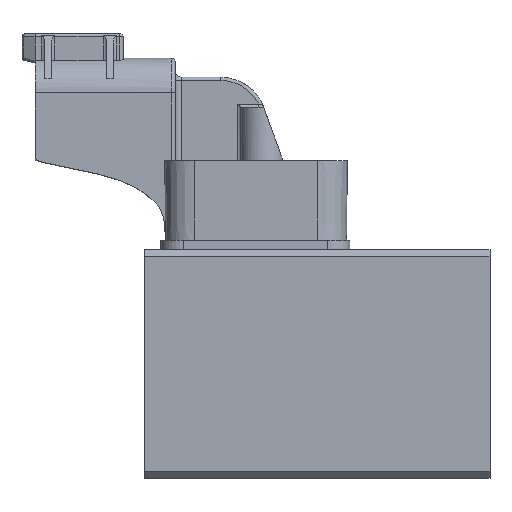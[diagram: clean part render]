
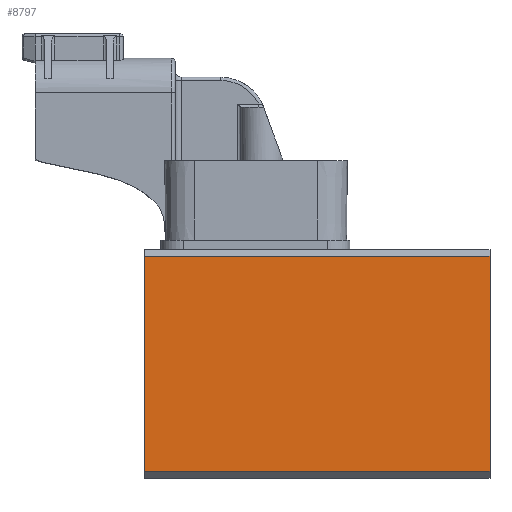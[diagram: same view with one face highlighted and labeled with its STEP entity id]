
A CAD part, top view. The second image highlights one B-rep face of the part: STEP entity #8797.
In plain terms, the highlighted planar face has unit normal (0, 0, 1).
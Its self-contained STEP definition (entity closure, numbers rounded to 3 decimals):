
#619 = DIRECTION ( 'NONE',  ( -1., 0., 0. ) ) ;
#1108 = DIRECTION ( 'NONE',  ( 0., 0., -1. ) ) ;
#2593 = VERTEX_POINT ( 'NONE', #13477 ) ;
#2720 = EDGE_LOOP ( 'NONE', ( #12645, #10191, #11117, #18543 ) ) ;
#3507 = DIRECTION ( 'NONE',  ( 1., 0., 0. ) ) ;
#3806 = LINE ( 'NONE', #14787, #13007 ) ;
#5380 = EDGE_CURVE ( 'NONE', #17459, #20080, #17105, .T. ) ;
#6477 = EDGE_CURVE ( 'NONE', #2593, #16698, #10017, .T. ) ;
#6766 = VECTOR ( 'NONE', #20844, 1000. ) ;
#7918 = DIRECTION ( 'NONE',  ( 0., -1., 0. ) ) ;
#8243 = CARTESIAN_POINT ( 'NONE',  ( 53., -16.5, 17.5 ) ) ;
#8342 = CARTESIAN_POINT ( 'NONE',  ( 53., -16.5, 17.5 ) ) ;
#8797 = ADVANCED_FACE ( 'NONE', ( #10992 ), #9927, .F. ) ;
#9927 = PLANE ( 'NONE',  #20761 ) ;
#10017 = LINE ( 'NONE', #20983, #6766 ) ;
#10191 = ORIENTED_EDGE ( 'NONE', *, *, #12413, .T. ) ;
#10788 = CARTESIAN_POINT ( 'NONE',  ( 53., -17.5, 17.5 ) ) ;
#10992 = FACE_OUTER_BOUND ( 'NONE', #2720, .T. ) ;
#11117 = ORIENTED_EDGE ( 'NONE', *, *, #5380, .F. ) ;
#12413 = EDGE_CURVE ( 'NONE', #16698, #20080, #19184, .T. ) ;
#12645 = ORIENTED_EDGE ( 'NONE', *, *, #6477, .T. ) ;
#13007 = VECTOR ( 'NONE', #619, 1000. ) ;
#13477 = CARTESIAN_POINT ( 'NONE',  ( 0., 16.5, 17.5 ) ) ;
#14787 = CARTESIAN_POINT ( 'NONE',  ( 53., 16.5, 17.5 ) ) ;
#15689 = DIRECTION ( 'NONE',  ( -1., 0., 0. ) ) ;
#15768 = EDGE_CURVE ( 'NONE', #17459, #2593, #3806, .T. ) ;
#16698 = VERTEX_POINT ( 'NONE', #19097 ) ;
#17105 = LINE ( 'NONE', #19373, #21197 ) ;
#17182 = CARTESIAN_POINT ( 'NONE',  ( 53., 16.5, 17.5 ) ) ;
#17410 = VECTOR ( 'NONE', #3507, 1000. ) ;
#17459 = VERTEX_POINT ( 'NONE', #17182 ) ;
#18543 = ORIENTED_EDGE ( 'NONE', *, *, #15768, .T. ) ;
#19097 = CARTESIAN_POINT ( 'NONE',  ( 0., -16.5, 17.5 ) ) ;
#19184 = LINE ( 'NONE', #8342, #17410 ) ;
#19373 = CARTESIAN_POINT ( 'NONE',  ( 53., -17.5, 17.5 ) ) ;
#20080 = VERTEX_POINT ( 'NONE', #8243 ) ;
#20761 = AXIS2_PLACEMENT_3D ( 'NONE', #10788, #1108, #15689 ) ;
#20844 = DIRECTION ( 'NONE',  ( 0., -1., 0. ) ) ;
#20983 = CARTESIAN_POINT ( 'NONE',  ( 0., -17.5, 17.5 ) ) ;
#21197 = VECTOR ( 'NONE', #7918, 1000. ) ;
